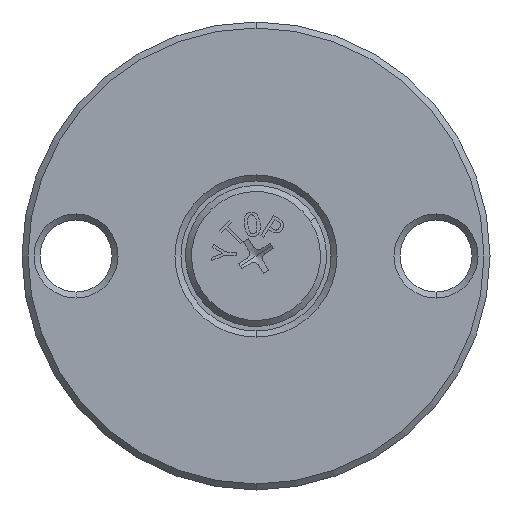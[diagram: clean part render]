
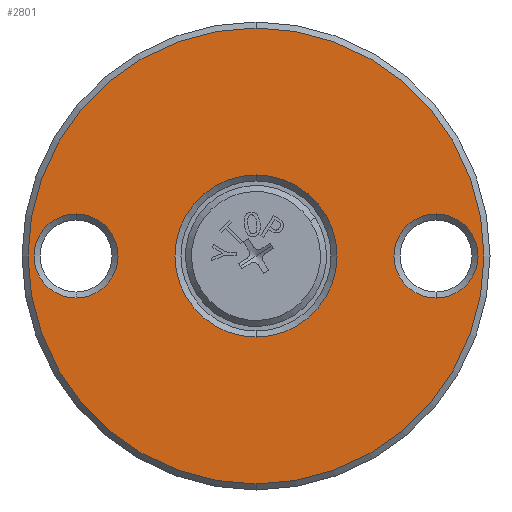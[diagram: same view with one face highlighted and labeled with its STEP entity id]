
A CAD part, front view. The second image highlights one B-rep face of the part: STEP entity #2801.
In plain terms, the highlighted planar face has unit normal (0, -1, 0).
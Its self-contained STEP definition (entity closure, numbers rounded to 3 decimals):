
#113 = EDGE_LOOP ( 'NONE', ( #6474, #4311 ) ) ;
#167 = CIRCLE ( 'NONE', #769, 13.5 ) ;
#253 = CARTESIAN_POINT ( 'NONE',  ( 30., 0., -7. ) ) ;
#378 = AXIS2_PLACEMENT_3D ( 'NONE', #8105, #2044, #5439 ) ;
#391 = VERTEX_POINT ( 'NONE', #642 ) ;
#593 = DIRECTION ( 'NONE',  ( 0., 1., 0. ) ) ;
#642 = CARTESIAN_POINT ( 'NONE',  ( -30., 0., -7. ) ) ;
#686 = EDGE_CURVE ( 'NONE', #4707, #6366, #6381, .T. ) ;
#709 = CARTESIAN_POINT ( 'NONE',  ( 0., 0., -13.5 ) ) ;
#769 = AXIS2_PLACEMENT_3D ( 'NONE', #7286, #6017, #6654 ) ;
#854 = DIRECTION ( 'NONE',  ( 0., 1., 0. ) ) ;
#905 = DIRECTION ( 'NONE',  ( 0., -1., 0. ) ) ;
#1430 = CARTESIAN_POINT ( 'NONE',  ( 0., 0., 0. ) ) ;
#1461 = VERTEX_POINT ( 'NONE', #709 ) ;
#1494 = DIRECTION ( 'NONE',  ( 0., 0., 1. ) ) ;
#1519 = ORIENTED_EDGE ( 'NONE', *, *, #2657, .T. ) ;
#1536 = EDGE_LOOP ( 'NONE', ( #4347, #6054 ) ) ;
#1712 = VERTEX_POINT ( 'NONE', #4586 ) ;
#1772 = AXIS2_PLACEMENT_3D ( 'NONE', #3938, #4628, #7290 ) ;
#1799 = CARTESIAN_POINT ( 'NONE',  ( -30., 0., 0. ) ) ;
#1819 = DIRECTION ( 'NONE',  ( 0., 0., 1. ) ) ;
#1851 = DIRECTION ( 'NONE',  ( 0., 0., 1. ) ) ;
#2044 = DIRECTION ( 'NONE',  ( 0., 1., 0. ) ) ;
#2175 = CARTESIAN_POINT ( 'NONE',  ( -30., 0., 0. ) ) ;
#2211 = CIRCLE ( 'NONE', #2666, 7. ) ;
#2343 = VERTEX_POINT ( 'NONE', #8214 ) ;
#2468 = ORIENTED_EDGE ( 'NONE', *, *, #5730, .T. ) ;
#2529 = CIRCLE ( 'NONE', #4360, 7. ) ;
#2530 = CARTESIAN_POINT ( 'NONE',  ( 30., 0., 0. ) ) ;
#2657 = EDGE_CURVE ( 'NONE', #2343, #3586, #6433, .T. ) ;
#2666 = AXIS2_PLACEMENT_3D ( 'NONE', #1799, #7158, #1851 ) ;
#2801 = ADVANCED_FACE ( 'NONE', ( #7989, #6234, #3913, #7469 ), #3909, .F. ) ;
#3242 = EDGE_CURVE ( 'NONE', #1712, #391, #2529, .T. ) ;
#3510 = AXIS2_PLACEMENT_3D ( 'NONE', #3856, #593, #6610 ) ;
#3586 = VERTEX_POINT ( 'NONE', #5906 ) ;
#3685 = CIRCLE ( 'NONE', #1772, 38. ) ;
#3840 = VERTEX_POINT ( 'NONE', #6834 ) ;
#3856 = CARTESIAN_POINT ( 'NONE',  ( 39., 0., 0. ) ) ;
#3870 = EDGE_LOOP ( 'NONE', ( #2468, #5831 ) ) ;
#3909 = PLANE ( 'NONE',  #3510 ) ;
#3913 = FACE_OUTER_BOUND ( 'NONE', #6887, .T. ) ;
#3938 = CARTESIAN_POINT ( 'NONE',  ( 0., 0., 0. ) ) ;
#4030 = EDGE_CURVE ( 'NONE', #1461, #3840, #167, .T. ) ;
#4311 = ORIENTED_EDGE ( 'NONE', *, *, #8532, .T. ) ;
#4319 = AXIS2_PLACEMENT_3D ( 'NONE', #7918, #7265, #1819 ) ;
#4347 = ORIENTED_EDGE ( 'NONE', *, *, #7629, .T. ) ;
#4360 = AXIS2_PLACEMENT_3D ( 'NONE', #2175, #854, #1494 ) ;
#4505 = DIRECTION ( 'NONE',  ( 0., 1., 0. ) ) ;
#4586 = CARTESIAN_POINT ( 'NONE',  ( -30., 0., 7. ) ) ;
#4628 = DIRECTION ( 'NONE',  ( 0., -1., 0. ) ) ;
#4707 = VERTEX_POINT ( 'NONE', #8291 ) ;
#4826 = CIRCLE ( 'NONE', #4319, 13.5 ) ;
#5247 = DIRECTION ( 'NONE',  ( 0., 0., 1. ) ) ;
#5439 = DIRECTION ( 'NONE',  ( 0., 0., 1. ) ) ;
#5478 = AXIS2_PLACEMENT_3D ( 'NONE', #1430, #905, #6258 ) ;
#5579 = AXIS2_PLACEMENT_3D ( 'NONE', #2530, #4505, #5247 ) ;
#5730 = EDGE_CURVE ( 'NONE', #391, #1712, #2211, .T. ) ;
#5831 = ORIENTED_EDGE ( 'NONE', *, *, #3242, .T. ) ;
#5906 = CARTESIAN_POINT ( 'NONE',  ( 0., 0., 38. ) ) ;
#6017 = DIRECTION ( 'NONE',  ( 0., 1., 0. ) ) ;
#6054 = ORIENTED_EDGE ( 'NONE', *, *, #686, .T. ) ;
#6234 = FACE_BOUND ( 'NONE', #3870, .T. ) ;
#6258 = DIRECTION ( 'NONE',  ( 0., 0., 1. ) ) ;
#6294 = CIRCLE ( 'NONE', #378, 7. ) ;
#6366 = VERTEX_POINT ( 'NONE', #253 ) ;
#6381 = CIRCLE ( 'NONE', #5579, 7. ) ;
#6433 = CIRCLE ( 'NONE', #5478, 38. ) ;
#6474 = ORIENTED_EDGE ( 'NONE', *, *, #4030, .T. ) ;
#6610 = DIRECTION ( 'NONE',  ( 0., 0., 1. ) ) ;
#6654 = DIRECTION ( 'NONE',  ( 0., 0., 1. ) ) ;
#6834 = CARTESIAN_POINT ( 'NONE',  ( 0., 0., 13.5 ) ) ;
#6880 = EDGE_CURVE ( 'NONE', #3586, #2343, #3685, .T. ) ;
#6887 = EDGE_LOOP ( 'NONE', ( #8254, #1519 ) ) ;
#7158 = DIRECTION ( 'NONE',  ( 0., 1., 0. ) ) ;
#7265 = DIRECTION ( 'NONE',  ( 0., 1., 0. ) ) ;
#7286 = CARTESIAN_POINT ( 'NONE',  ( 0., 0., 0. ) ) ;
#7290 = DIRECTION ( 'NONE',  ( 0., 0., 1. ) ) ;
#7469 = FACE_BOUND ( 'NONE', #113, .T. ) ;
#7629 = EDGE_CURVE ( 'NONE', #6366, #4707, #6294, .T. ) ;
#7918 = CARTESIAN_POINT ( 'NONE',  ( 0., 0., 0. ) ) ;
#7989 = FACE_BOUND ( 'NONE', #1536, .T. ) ;
#8105 = CARTESIAN_POINT ( 'NONE',  ( 30., 0., 0. ) ) ;
#8214 = CARTESIAN_POINT ( 'NONE',  ( 0., 0., -38. ) ) ;
#8254 = ORIENTED_EDGE ( 'NONE', *, *, #6880, .T. ) ;
#8291 = CARTESIAN_POINT ( 'NONE',  ( 30., 0., 7. ) ) ;
#8532 = EDGE_CURVE ( 'NONE', #3840, #1461, #4826, .T. ) ;
